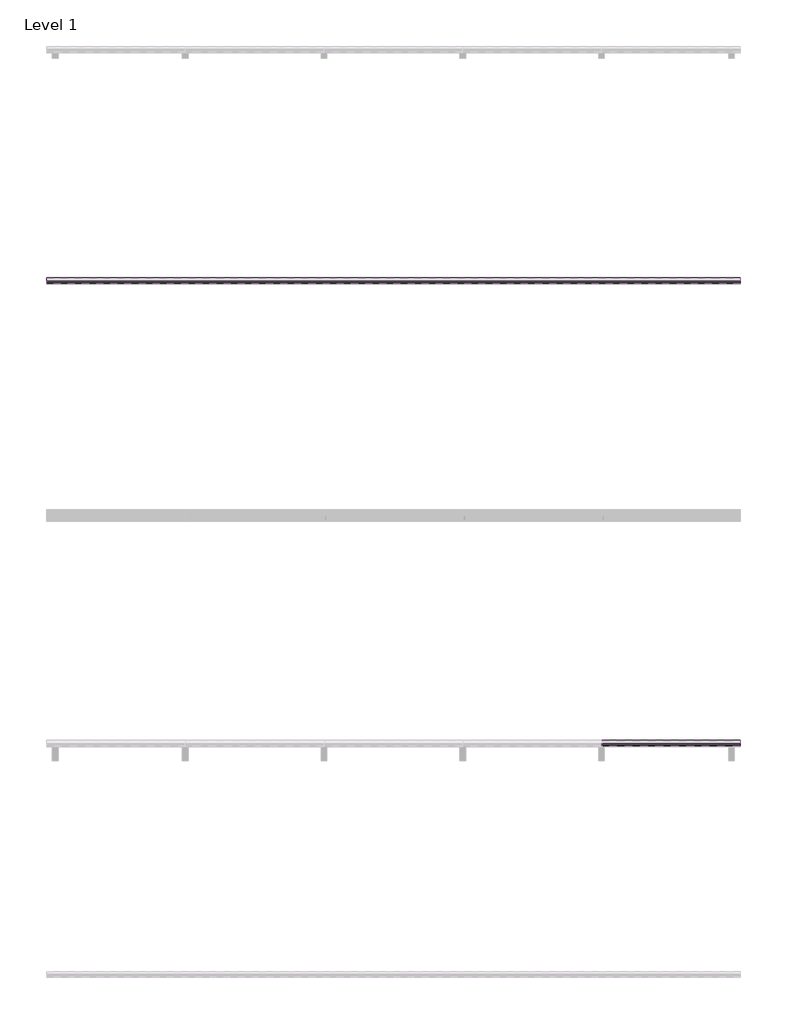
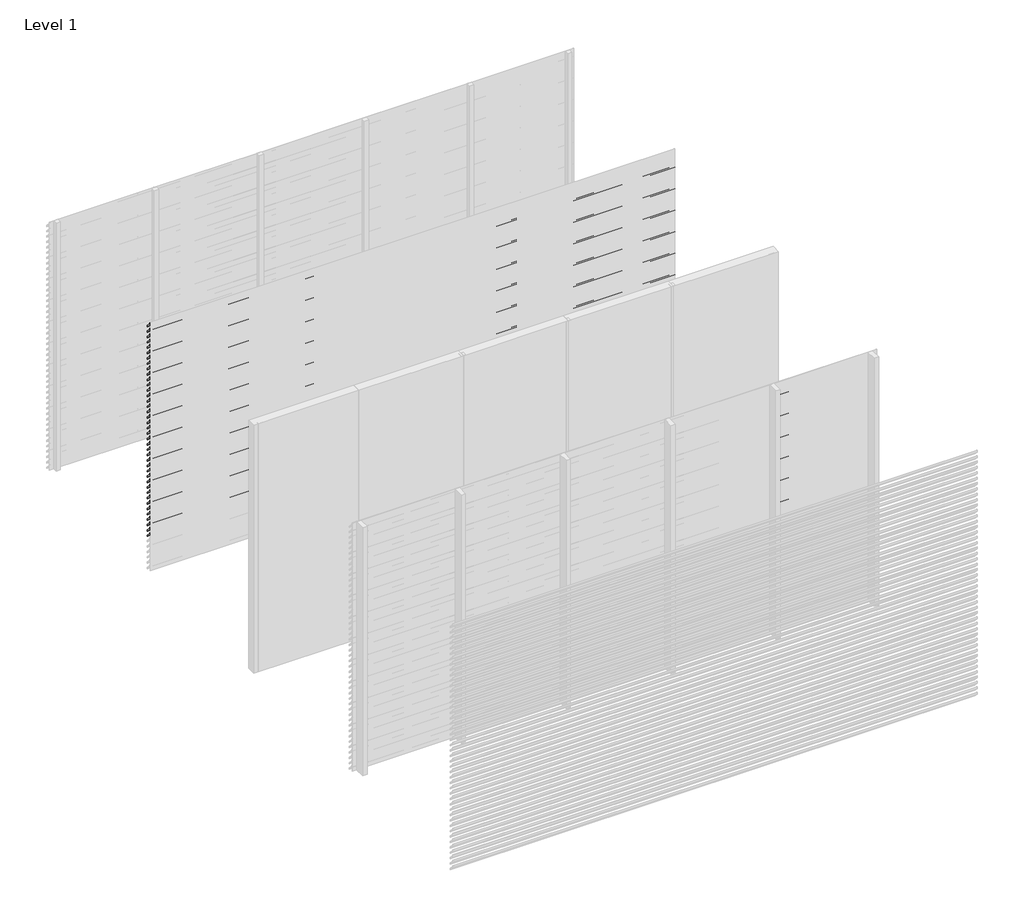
# One storey, part 4 of 12: 96 proxies.
"""IFC4 building model written with IfcOpenShell, lengths in millimetres."""

from ifc_helpers import new_model, si_unit, frame, origin, place, context, project, spatial, polyline, outline, extrude, element, save

model = new_model("IFC4")

# Units and contexts
model_context = context("Model", 3, world=origin())
ifc_project = project(units=[si_unit("LENGTHUNIT", "METRE", prefix="MILLI")], contexts=[model_context])

# Site, building, storey
site = spatial("IfcSite", under=ifc_project)
building = spatial("IfcBuilding", under=site)
storey = spatial("IfcBuildingStorey", under=building, Name="Level 1", Elevation=0.0)

# Proxies
placement = place(None, origin())
element("IfcBuildingElementProxy", 1, Name="Wall Sweeps", at=placement, inside=storey, context=model_context, shape_type="SweptSolid", body=[
    extrude(outline(polyline([(-13995.0, 2990.0), (-13995.0, 2980.7409854), (-13946.0, 2930.0), (-13946.0, 2914.0), (-13997.0, 2966.812046), (-13997.0, 2990.0), (-13995.0, 2990.0)])), frame((0.0, 0.0, 0.0), z_axis=(1.0, 0.0, 0.0), x_axis=(0.0, 1.0, 0.0)), (0.0, 0.0, 1.0), 6000.0),
])
element("IfcBuildingElementProxy", 2, Name="Wall Sweeps", at=placement, inside=storey, context=model_context, shape_type="SweptSolid", body=[
    extrude(outline(polyline([(-13995.0, 2925.0), (-13995.0, 2915.7409854), (-13946.0, 2865.0), (-13946.0, 2849.0), (-13997.0, 2901.812046), (-13997.0, 2925.0), (-13995.0, 2925.0)])), frame((0.0, 0.0, 0.0), z_axis=(1.0, 0.0, 0.0), x_axis=(0.0, 1.0, 0.0)), (0.0, 0.0, 1.0), 6000.0),
])
element("IfcBuildingElementProxy", 3, Name="Wall Sweeps", at=placement, inside=storey, context=model_context, shape_type="SweptSolid", body=[
    extrude(outline(polyline([(-13995.0, 2860.0), (-13995.0, 2850.7409854), (-13946.0, 2800.0), (-13946.0, 2784.0), (-13997.0, 2836.812046), (-13997.0, 2860.0), (-13995.0, 2860.0)])), frame((0.0, 0.0, 0.0), z_axis=(1.0, 0.0, 0.0), x_axis=(0.0, 1.0, 0.0)), (0.0, 0.0, 1.0), 6000.0),
])
element("IfcBuildingElementProxy", 4, Name="Wall Sweeps", at=placement, inside=storey, context=model_context, shape_type="SweptSolid", body=[
    extrude(outline(polyline([(-13995.0, 2795.0), (-13995.0, 2785.7409854), (-13946.0, 2735.0), (-13946.0, 2719.0), (-13997.0, 2771.812046), (-13997.0, 2795.0), (-13995.0, 2795.0)])), frame((0.0, 0.0, 0.0), z_axis=(1.0, 0.0, 0.0), x_axis=(0.0, 1.0, 0.0)), (0.0, 0.0, 1.0), 6000.0),
])
element("IfcBuildingElementProxy", 5, Name="Wall Sweeps", at=placement, inside=storey, context=model_context, shape_type="SweptSolid", body=[
    extrude(outline(polyline([(-13995.0, 2730.0), (-13995.0, 2720.7409854), (-13946.0, 2670.0), (-13946.0, 2654.0), (-13997.0, 2706.812046), (-13997.0, 2730.0), (-13995.0, 2730.0)])), frame((0.0, 0.0, 0.0), z_axis=(1.0, 0.0, 0.0), x_axis=(0.0, 1.0, 0.0)), (0.0, 0.0, 1.0), 6000.0),
])
element("IfcBuildingElementProxy", 6, Name="Wall Sweeps", at=placement, inside=storey, context=model_context, shape_type="SweptSolid", body=[
    extrude(outline(polyline([(-13995.0, 2665.0), (-13995.0, 2655.7409854), (-13946.0, 2605.0), (-13946.0, 2589.0), (-13997.0, 2641.812046), (-13997.0, 2665.0), (-13995.0, 2665.0)])), frame((0.0, 0.0, 0.0), z_axis=(1.0, 0.0, 0.0), x_axis=(0.0, 1.0, 0.0)), (0.0, 0.0, 1.0), 6000.0),
])
element("IfcBuildingElementProxy", 7, Name="Wall Sweeps", at=placement, inside=storey, context=model_context, shape_type="SweptSolid", body=[
    extrude(outline(polyline([(-13995.0, 2600.0), (-13995.0, 2590.7409854), (-13946.0, 2540.0), (-13946.0, 2524.0), (-13997.0, 2576.812046), (-13997.0, 2600.0), (-13995.0, 2600.0)])), frame((0.0, 0.0, 0.0), z_axis=(1.0, 0.0, 0.0), x_axis=(0.0, 1.0, 0.0)), (0.0, 0.0, 1.0), 6000.0),
])
element("IfcBuildingElementProxy", 8, Name="Wall Sweeps", at=placement, inside=storey, context=model_context, shape_type="SweptSolid", body=[
    extrude(outline(polyline([(-13995.0, 2535.0), (-13995.0, 2525.7409854), (-13946.0, 2475.0), (-13946.0, 2459.0), (-13997.0, 2511.812046), (-13997.0, 2535.0), (-13995.0, 2535.0)])), frame((0.0, 0.0, 0.0), z_axis=(1.0, 0.0, 0.0), x_axis=(0.0, 1.0, 0.0)), (0.0, 0.0, 1.0), 6000.0),
])
element("IfcBuildingElementProxy", 9, Name="Wall Sweeps", at=placement, inside=storey, context=model_context, shape_type="SweptSolid", body=[
    extrude(outline(polyline([(-13995.0, 2470.0), (-13995.0, 2460.7409854), (-13946.0, 2410.0), (-13946.0, 2394.0), (-13997.0, 2446.812046), (-13997.0, 2470.0), (-13995.0, 2470.0)])), frame((0.0, 0.0, 0.0), z_axis=(1.0, 0.0, 0.0), x_axis=(0.0, 1.0, 0.0)), (0.0, 0.0, 1.0), 6000.0),
])
element("IfcBuildingElementProxy", 10, Name="Wall Sweeps", at=placement, inside=storey, context=model_context, shape_type="SweptSolid", body=[
    extrude(outline(polyline([(-13995.0, 2405.0), (-13995.0, 2395.7409854), (-13946.0, 2345.0), (-13946.0, 2329.0), (-13997.0, 2381.812046), (-13997.0, 2405.0), (-13995.0, 2405.0)])), frame((0.0, 0.0, 0.0), z_axis=(1.0, 0.0, 0.0), x_axis=(0.0, 1.0, 0.0)), (0.0, 0.0, 1.0), 6000.0),
])
element("IfcBuildingElementProxy", 11, Name="Wall Sweeps", at=placement, inside=storey, context=model_context, shape_type="SweptSolid", body=[
    extrude(outline(polyline([(-13995.0, 2340.0), (-13995.0, 2330.7409854), (-13946.0, 2280.0), (-13946.0, 2264.0), (-13997.0, 2316.812046), (-13997.0, 2340.0), (-13995.0, 2340.0)])), frame((0.0, 0.0, 0.0), z_axis=(1.0, 0.0, 0.0), x_axis=(0.0, 1.0, 0.0)), (0.0, 0.0, 1.0), 6000.0),
])
element("IfcBuildingElementProxy", 12, Name="Wall Sweeps", at=placement, inside=storey, context=model_context, shape_type="SweptSolid", body=[
    extrude(outline(polyline([(-13995.0, 2275.0), (-13995.0, 2265.7409854), (-13946.0, 2215.0), (-13946.0, 2199.0), (-13997.0, 2251.812046), (-13997.0, 2275.0), (-13995.0, 2275.0)])), frame((0.0, 0.0, 0.0), z_axis=(1.0, 0.0, 0.0), x_axis=(0.0, 1.0, 0.0)), (0.0, 0.0, 1.0), 6000.0),
])
element("IfcBuildingElementProxy", 13, Name="Wall Sweeps", at=placement, inside=storey, context=model_context, shape_type="SweptSolid", body=[
    extrude(outline(polyline([(-13995.0, 2210.0), (-13995.0, 2200.7409854), (-13946.0, 2150.0), (-13946.0, 2134.0), (-13997.0, 2186.812046), (-13997.0, 2210.0), (-13995.0, 2210.0)])), frame((0.0, 0.0, 0.0), z_axis=(1.0, 0.0, 0.0), x_axis=(0.0, 1.0, 0.0)), (0.0, 0.0, 1.0), 6000.0),
])
element("IfcBuildingElementProxy", 14, Name="Wall Sweeps", at=placement, inside=storey, context=model_context, shape_type="SweptSolid", body=[
    extrude(outline(polyline([(-13995.0, 2145.0), (-13995.0, 2135.7409854), (-13946.0, 2085.0), (-13946.0, 2069.0), (-13997.0, 2121.812046), (-13997.0, 2145.0), (-13995.0, 2145.0)])), frame((0.0, 0.0, 0.0), z_axis=(1.0, 0.0, 0.0), x_axis=(0.0, 1.0, 0.0)), (0.0, 0.0, 1.0), 6000.0),
])
element("IfcBuildingElementProxy", 15, Name="Wall Sweeps", at=placement, inside=storey, context=model_context, shape_type="SweptSolid", body=[
    extrude(outline(polyline([(-13995.0, 2080.0), (-13995.0, 2070.7409854), (-13946.0, 2020.0), (-13946.0, 2004.0), (-13997.0, 2056.812046), (-13997.0, 2080.0), (-13995.0, 2080.0)])), frame((0.0, 0.0, 0.0), z_axis=(1.0, 0.0, 0.0), x_axis=(0.0, 1.0, 0.0)), (0.0, 0.0, 1.0), 6000.0),
])
element("IfcBuildingElementProxy", 16, Name="Wall Sweeps", at=placement, inside=storey, context=model_context, shape_type="SweptSolid", body=[
    extrude(outline(polyline([(-13995.0, 2015.0), (-13995.0, 2005.7409854), (-13946.0, 1955.0), (-13946.0, 1939.0), (-13997.0, 1991.812046), (-13997.0, 2015.0), (-13995.0, 2015.0)])), frame((0.0, 0.0, 0.0), z_axis=(1.0, 0.0, 0.0), x_axis=(0.0, 1.0, 0.0)), (0.0, 0.0, 1.0), 6000.0),
])
element("IfcBuildingElementProxy", 17, Name="Wall Sweeps", at=placement, inside=storey, context=model_context, shape_type="SweptSolid", body=[
    extrude(outline(polyline([(-13995.0, 1950.0), (-13995.0, 1940.7409854), (-13946.0, 1890.0), (-13946.0, 1874.0), (-13997.0, 1926.812046), (-13997.0, 1950.0), (-13995.0, 1950.0)])), frame((0.0, 0.0, 0.0), z_axis=(1.0, 0.0, 0.0), x_axis=(0.0, 1.0, 0.0)), (0.0, 0.0, 1.0), 6000.0),
])
element("IfcBuildingElementProxy", 18, Name="Wall Sweeps", at=placement, inside=storey, context=model_context, shape_type="SweptSolid", body=[
    extrude(outline(polyline([(-13995.0, 1885.0), (-13995.0, 1875.7409854), (-13946.0, 1825.0), (-13946.0, 1809.0), (-13997.0, 1861.812046), (-13997.0, 1885.0), (-13995.0, 1885.0)])), frame((0.0, 0.0, 0.0), z_axis=(1.0, 0.0, 0.0), x_axis=(0.0, 1.0, 0.0)), (0.0, 0.0, 1.0), 6000.0),
])
element("IfcBuildingElementProxy", 19, Name="Wall Sweeps", at=placement, inside=storey, context=model_context, shape_type="SweptSolid", body=[
    extrude(outline(polyline([(-13995.0, 1820.0), (-13995.0, 1810.7409854), (-13946.0, 1760.0), (-13946.0, 1744.0), (-13997.0, 1796.812046), (-13997.0, 1820.0), (-13995.0, 1820.0)])), frame((0.0, 0.0, 0.0), z_axis=(1.0, 0.0, 0.0), x_axis=(0.0, 1.0, 0.0)), (0.0, 0.0, 1.0), 6000.0),
])
element("IfcBuildingElementProxy", 20, Name="Wall Sweeps", at=placement, inside=storey, context=model_context, shape_type="SweptSolid", body=[
    extrude(outline(polyline([(-13995.0, 1755.0), (-13995.0, 1745.7409854), (-13946.0, 1695.0), (-13946.0, 1679.0), (-13997.0, 1731.812046), (-13997.0, 1755.0), (-13995.0, 1755.0)])), frame((0.0, 0.0, 0.0), z_axis=(1.0, 0.0, 0.0), x_axis=(0.0, 1.0, 0.0)), (0.0, 0.0, 1.0), 6000.0),
])
element("IfcBuildingElementProxy", 21, Name="Wall Sweeps", at=placement, inside=storey, context=model_context, shape_type="SweptSolid", body=[
    extrude(outline(polyline([(-13995.0, 1690.0), (-13995.0, 1680.7409854), (-13946.0, 1630.0), (-13946.0, 1614.0), (-13997.0, 1666.812046), (-13997.0, 1690.0), (-13995.0, 1690.0)])), frame((0.0, 0.0, 0.0), z_axis=(1.0, 0.0, 0.0), x_axis=(0.0, 1.0, 0.0)), (0.0, 0.0, 1.0), 6000.0),
])
element("IfcBuildingElementProxy", 22, Name="Wall Sweeps", at=placement, inside=storey, context=model_context, shape_type="SweptSolid", body=[
    extrude(outline(polyline([(-13995.0, 1625.0), (-13995.0, 1615.7409854), (-13946.0, 1565.0), (-13946.0, 1549.0), (-13997.0, 1601.812046), (-13997.0, 1625.0), (-13995.0, 1625.0)])), frame((0.0, 0.0, 0.0), z_axis=(1.0, 0.0, 0.0), x_axis=(0.0, 1.0, 0.0)), (0.0, 0.0, 1.0), 6000.0),
])
element("IfcBuildingElementProxy", 23, Name="Wall Sweeps", at=placement, inside=storey, context=model_context, shape_type="SweptSolid", body=[
    extrude(outline(polyline([(-13995.0, 1560.0), (-13995.0, 1550.7409854), (-13946.0, 1500.0), (-13946.0, 1484.0), (-13997.0, 1536.812046), (-13997.0, 1560.0), (-13995.0, 1560.0)])), frame((0.0, 0.0, 0.0), z_axis=(1.0, 0.0, 0.0), x_axis=(0.0, 1.0, 0.0)), (0.0, 0.0, 1.0), 6000.0),
])
element("IfcBuildingElementProxy", 24, Name="Wall Sweeps", at=placement, inside=storey, context=model_context, shape_type="SweptSolid", body=[
    extrude(outline(polyline([(-13995.0, 1495.0), (-13995.0, 1485.7409854), (-13946.0, 1435.0), (-13946.0, 1419.0), (-13997.0, 1471.812046), (-13997.0, 1495.0), (-13995.0, 1495.0)])), frame((0.0, 0.0, 0.0), z_axis=(1.0, 0.0, 0.0), x_axis=(0.0, 1.0, 0.0)), (0.0, 0.0, 1.0), 6000.0),
])
element("IfcBuildingElementProxy", 25, Name="Wall Sweeps", at=placement, inside=storey, context=model_context, shape_type="SweptSolid", body=[
    extrude(outline(polyline([(-13995.0, 1430.0), (-13995.0, 1420.7409854), (-13946.0, 1370.0), (-13946.0, 1354.0), (-13997.0, 1406.812046), (-13997.0, 1430.0), (-13995.0, 1430.0)])), frame((0.0, 0.0, 0.0), z_axis=(1.0, 0.0, 0.0), x_axis=(0.0, 1.0, 0.0)), (0.0, 0.0, 1.0), 6000.0),
])
element("IfcBuildingElementProxy", 26, Name="Wall Sweeps", at=placement, inside=storey, context=model_context, shape_type="SweptSolid", body=[
    extrude(outline(polyline([(-13995.0, 1365.0), (-13995.0, 1355.7409854), (-13946.0, 1305.0), (-13946.0, 1289.0), (-13997.0, 1341.812046), (-13997.0, 1365.0), (-13995.0, 1365.0)])), frame((0.0, 0.0, 0.0), z_axis=(1.0, 0.0, 0.0), x_axis=(0.0, 1.0, 0.0)), (0.0, 0.0, 1.0), 6000.0),
])
element("IfcBuildingElementProxy", 27, Name="Wall Sweeps", at=placement, inside=storey, context=model_context, shape_type="SweptSolid", body=[
    extrude(outline(polyline([(-13995.0, 1300.0), (-13995.0, 1290.7409854), (-13946.0, 1240.0), (-13946.0, 1224.0), (-13997.0, 1276.812046), (-13997.0, 1300.0), (-13995.0, 1300.0)])), frame((0.0, 0.0, 0.0), z_axis=(1.0, 0.0, 0.0), x_axis=(0.0, 1.0, 0.0)), (0.0, 0.0, 1.0), 6000.0),
])
element("IfcBuildingElementProxy", 28, Name="Wall Sweeps", at=placement, inside=storey, context=model_context, shape_type="SweptSolid", body=[
    extrude(outline(polyline([(-13995.0, 1235.0), (-13995.0, 1225.7409854), (-13946.0, 1175.0), (-13946.0, 1159.0), (-13997.0, 1211.812046), (-13997.0, 1235.0), (-13995.0, 1235.0)])), frame((0.0, 0.0, 0.0), z_axis=(1.0, 0.0, 0.0), x_axis=(0.0, 1.0, 0.0)), (0.0, 0.0, 1.0), 6000.0),
])
element("IfcBuildingElementProxy", 29, Name="Wall Sweeps", at=placement, inside=storey, context=model_context, shape_type="SweptSolid", body=[
    extrude(outline(polyline([(-13995.0, 1170.0), (-13995.0, 1160.7409854), (-13946.0, 1110.0), (-13946.0, 1094.0), (-13997.0, 1146.812046), (-13997.0, 1170.0), (-13995.0, 1170.0)])), frame((0.0, 0.0, 0.0), z_axis=(1.0, 0.0, 0.0), x_axis=(0.0, 1.0, 0.0)), (0.0, 0.0, 1.0), 6000.0),
])
element("IfcBuildingElementProxy", 30, Name="Wall Sweeps", at=placement, inside=storey, context=model_context, shape_type="SweptSolid", body=[
    extrude(outline(polyline([(-13995.0, 1105.0), (-13995.0, 1095.7409854), (-13946.0, 1045.0), (-13946.0, 1029.0), (-13997.0, 1081.812046), (-13997.0, 1105.0), (-13995.0, 1105.0)])), frame((0.0, 0.0, 0.0), z_axis=(1.0, 0.0, 0.0), x_axis=(0.0, 1.0, 0.0)), (0.0, 0.0, 1.0), 6000.0),
])
element("IfcBuildingElementProxy", 31, Name="Wall Sweeps", at=placement, inside=storey, context=model_context, shape_type="SweptSolid", body=[
    extrude(outline(polyline([(-13995.0, 1040.0), (-13995.0, 1030.7409854), (-13946.0, 980.0), (-13946.0, 964.0), (-13997.0, 1016.812046), (-13997.0, 1040.0), (-13995.0, 1040.0)])), frame((0.0, 0.0, 0.0), z_axis=(1.0, 0.0, 0.0), x_axis=(0.0, 1.0, 0.0)), (0.0, 0.0, 1.0), 6000.0),
])
element("IfcBuildingElementProxy", 32, Name="Wall Sweeps", at=placement, inside=storey, context=model_context, shape_type="SweptSolid", body=[
    extrude(outline(polyline([(-13995.0, 975.0), (-13995.0, 965.7409854), (-13946.0, 915.0), (-13946.0, 899.0), (-13997.0, 951.812046), (-13997.0, 975.0), (-13995.0, 975.0)])), frame((0.0, 0.0, 0.0), z_axis=(1.0, 0.0, 0.0), x_axis=(0.0, 1.0, 0.0)), (0.0, 0.0, 1.0), 6000.0),
])
element("IfcBuildingElementProxy", 33, Name="Wall Sweeps", at=placement, inside=storey, context=model_context, shape_type="SweptSolid", body=[
    extrude(outline(polyline([(-13995.0, 910.0), (-13995.0, 900.7409854), (-13946.0, 850.0), (-13946.0, 834.0), (-13997.0, 886.812046), (-13997.0, 910.0), (-13995.0, 910.0)])), frame((0.0, 0.0, 0.0), z_axis=(1.0, 0.0, 0.0), x_axis=(0.0, 1.0, 0.0)), (0.0, 0.0, 1.0), 6000.0),
])
element("IfcBuildingElementProxy", 34, Name="Wall Sweeps", at=placement, inside=storey, context=model_context, shape_type="SweptSolid", body=[
    extrude(outline(polyline([(-13995.0, 845.0), (-13995.0, 835.7409854), (-13946.0, 785.0), (-13946.0, 769.0), (-13997.0, 821.812046), (-13997.0, 845.0), (-13995.0, 845.0)])), frame((0.0, 0.0, 0.0), z_axis=(1.0, 0.0, 0.0), x_axis=(0.0, 1.0, 0.0)), (0.0, 0.0, 1.0), 6000.0),
])
element("IfcBuildingElementProxy", 35, Name="Wall Sweeps", at=placement, inside=storey, context=model_context, shape_type="SweptSolid", body=[
    extrude(outline(polyline([(-13995.0, 780.0), (-13995.0, 770.7409854), (-13946.0, 720.0), (-13946.0, 704.0), (-13997.0, 756.812046), (-13997.0, 780.0), (-13995.0, 780.0)])), frame((0.0, 0.0, 0.0), z_axis=(1.0, 0.0, 0.0), x_axis=(0.0, 1.0, 0.0)), (0.0, 0.0, 1.0), 6000.0),
])
element("IfcBuildingElementProxy", 36, Name="Wall Sweeps", at=placement, inside=storey, context=model_context, shape_type="SweptSolid", body=[
    extrude(outline(polyline([(-13995.0, 715.0), (-13995.0, 705.7409854), (-13946.0, 655.0), (-13946.0, 639.0), (-13997.0, 691.812046), (-13997.0, 715.0), (-13995.0, 715.0)])), frame((0.0, 0.0, 0.0), z_axis=(1.0, 0.0, 0.0), x_axis=(0.0, 1.0, 0.0)), (0.0, 0.0, 1.0), 6000.0),
])
element("IfcBuildingElementProxy", 37, Name="Wall Sweeps", at=placement, inside=storey, context=model_context, shape_type="SweptSolid", body=[
    extrude(outline(polyline([(-13995.0, 650.0), (-13995.0, 640.7409854), (-13946.0, 590.0), (-13946.0, 574.0), (-13997.0, 626.812046), (-13997.0, 650.0), (-13995.0, 650.0)])), frame((0.0, 0.0, 0.0), z_axis=(1.0, 0.0, 0.0), x_axis=(0.0, 1.0, 0.0)), (0.0, 0.0, 1.0), 6000.0),
])
element("IfcBuildingElementProxy", 38, Name="Wall Sweeps", at=placement, inside=storey, context=model_context, shape_type="SweptSolid", body=[
    extrude(outline(polyline([(-13995.0, 585.0), (-13995.0, 575.7409854), (-13946.0, 525.0), (-13946.0, 509.0), (-13997.0, 561.812046), (-13997.0, 585.0), (-13995.0, 585.0)])), frame((0.0, 0.0, 0.0), z_axis=(1.0, 0.0, 0.0), x_axis=(0.0, 1.0, 0.0)), (0.0, 0.0, 1.0), 6000.0),
])
element("IfcBuildingElementProxy", 39, Name="Wall Sweeps", at=placement, inside=storey, context=model_context, shape_type="SweptSolid", body=[
    extrude(outline(polyline([(-13995.0, 520.0), (-13995.0, 510.7409854), (-13946.0, 460.0), (-13946.0, 444.0), (-13997.0, 496.812046), (-13997.0, 520.0), (-13995.0, 520.0)])), frame((0.0, 0.0, 0.0), z_axis=(1.0, 0.0, 0.0), x_axis=(0.0, 1.0, 0.0)), (0.0, 0.0, 1.0), 6000.0),
])
element("IfcBuildingElementProxy", 40, Name="Wall Sweeps", at=placement, inside=storey, context=model_context, shape_type="SweptSolid", body=[
    extrude(outline(polyline([(-13995.0, 455.0), (-13995.0, 445.7409854), (-13946.0, 395.0), (-13946.0, 379.0), (-13997.0, 431.812046), (-13997.0, 455.0), (-13995.0, 455.0)])), frame((0.0, 0.0, 0.0), z_axis=(1.0, 0.0, 0.0), x_axis=(0.0, 1.0, 0.0)), (0.0, 0.0, 1.0), 6000.0),
])
element("IfcBuildingElementProxy", 41, Name="Wall Sweeps", at=placement, inside=storey, context=model_context, shape_type="SweptSolid", body=[
    extrude(outline(polyline([(-17995.0, 2990.0), (-17995.0, 2980.7409854), (-17946.0, 2930.0), (-17946.0, 2914.0), (-17997.0, 2966.812046), (-17997.0, 2990.0), (-17995.0, 2990.0)])), frame((4799.9999998, 0.0, 0.0), z_axis=(1.0, 0.0, 0.0), x_axis=(0.0, 1.0, 0.0)), (0.0, 0.0, 1.0), 1200.0000002),
])
element("IfcBuildingElementProxy", 42, Name="Wall Sweeps", at=placement, inside=storey, context=model_context, shape_type="SweptSolid", body=[
    extrude(outline(polyline([(-17995.0, 2925.0), (-17995.0, 2915.7409854), (-17946.0, 2865.0), (-17946.0, 2849.0), (-17997.0, 2901.812046), (-17997.0, 2925.0), (-17995.0, 2925.0)])), frame((4799.9999998, 0.0, 0.0), z_axis=(1.0, 0.0, 0.0), x_axis=(0.0, 1.0, 0.0)), (0.0, 0.0, 1.0), 1200.0000002),
])
element("IfcBuildingElementProxy", 43, Name="Wall Sweeps", at=placement, inside=storey, context=model_context, shape_type="SweptSolid", body=[
    extrude(outline(polyline([(-17995.0, 2860.0), (-17995.0, 2850.7409854), (-17946.0, 2800.0), (-17946.0, 2784.0), (-17997.0, 2836.812046), (-17997.0, 2860.0), (-17995.0, 2860.0)])), frame((4799.9999998, 0.0, 0.0), z_axis=(1.0, 0.0, 0.0), x_axis=(0.0, 1.0, 0.0)), (0.0, 0.0, 1.0), 1200.0000002),
])
element("IfcBuildingElementProxy", 44, Name="Wall Sweeps", at=placement, inside=storey, context=model_context, shape_type="SweptSolid", body=[
    extrude(outline(polyline([(-17995.0, 2795.0), (-17995.0, 2785.7409854), (-17946.0, 2735.0), (-17946.0, 2719.0), (-17997.0, 2771.812046), (-17997.0, 2795.0), (-17995.0, 2795.0)])), frame((4799.9999998, 0.0, 0.0), z_axis=(1.0, 0.0, 0.0), x_axis=(0.0, 1.0, 0.0)), (0.0, 0.0, 1.0), 1200.0000002),
])
element("IfcBuildingElementProxy", 45, Name="Wall Sweeps", at=placement, inside=storey, context=model_context, shape_type="SweptSolid", body=[
    extrude(outline(polyline([(-17995.0, 2730.0), (-17995.0, 2720.7409854), (-17946.0, 2670.0), (-17946.0, 2654.0), (-17997.0, 2706.812046), (-17997.0, 2730.0), (-17995.0, 2730.0)])), frame((4799.9999998, 0.0, 0.0), z_axis=(1.0, 0.0, 0.0), x_axis=(0.0, 1.0, 0.0)), (0.0, 0.0, 1.0), 1200.0000002),
])
element("IfcBuildingElementProxy", 46, Name="Wall Sweeps", at=placement, inside=storey, context=model_context, shape_type="SweptSolid", body=[
    extrude(outline(polyline([(-17995.0, 2665.0), (-17995.0, 2655.7409854), (-17946.0, 2605.0), (-17946.0, 2589.0), (-17997.0, 2641.812046), (-17997.0, 2665.0), (-17995.0, 2665.0)])), frame((4799.9999998, 0.0, 0.0), z_axis=(1.0, 0.0, 0.0), x_axis=(0.0, 1.0, 0.0)), (0.0, 0.0, 1.0), 1200.0000002),
])
element("IfcBuildingElementProxy", 47, Name="Wall Sweeps", at=placement, inside=storey, context=model_context, shape_type="SweptSolid", body=[
    extrude(outline(polyline([(-17995.0, 2600.0), (-17995.0, 2590.7409854), (-17946.0, 2540.0), (-17946.0, 2524.0), (-17997.0, 2576.812046), (-17997.0, 2600.0), (-17995.0, 2600.0)])), frame((4799.9999998, 0.0, 0.0), z_axis=(1.0, 0.0, 0.0), x_axis=(0.0, 1.0, 0.0)), (0.0, 0.0, 1.0), 1200.0000002),
])
element("IfcBuildingElementProxy", 48, Name="Wall Sweeps", at=placement, inside=storey, context=model_context, shape_type="SweptSolid", body=[
    extrude(outline(polyline([(-17995.0, 2535.0), (-17995.0, 2525.7409854), (-17946.0, 2475.0), (-17946.0, 2459.0), (-17997.0, 2511.812046), (-17997.0, 2535.0), (-17995.0, 2535.0)])), frame((4799.9999998, 0.0, 0.0), z_axis=(1.0, 0.0, 0.0), x_axis=(0.0, 1.0, 0.0)), (0.0, 0.0, 1.0), 1200.0000002),
])
element("IfcBuildingElementProxy", 49, Name="Wall Sweeps", at=placement, inside=storey, context=model_context, shape_type="SweptSolid", body=[
    extrude(outline(polyline([(-17995.0, 2470.0), (-17995.0, 2460.7409854), (-17946.0, 2410.0), (-17946.0, 2394.0), (-17997.0, 2446.812046), (-17997.0, 2470.0), (-17995.0, 2470.0)])), frame((4799.9999998, 0.0, 0.0), z_axis=(1.0, 0.0, 0.0), x_axis=(0.0, 1.0, 0.0)), (0.0, 0.0, 1.0), 1200.0000002),
])
element("IfcBuildingElementProxy", 50, Name="Wall Sweeps", at=placement, inside=storey, context=model_context, shape_type="SweptSolid", body=[
    extrude(outline(polyline([(-17995.0, 2405.0), (-17995.0, 2395.7409854), (-17946.0, 2345.0), (-17946.0, 2329.0), (-17997.0, 2381.812046), (-17997.0, 2405.0), (-17995.0, 2405.0)])), frame((4799.9999998, 0.0, 0.0), z_axis=(1.0, 0.0, 0.0), x_axis=(0.0, 1.0, 0.0)), (0.0, 0.0, 1.0), 1200.0000002),
])
element("IfcBuildingElementProxy", 51, Name="Wall Sweeps", at=placement, inside=storey, context=model_context, shape_type="SweptSolid", body=[
    extrude(outline(polyline([(-17995.0, 2340.0), (-17995.0, 2330.7409854), (-17946.0, 2280.0), (-17946.0, 2264.0), (-17997.0, 2316.812046), (-17997.0, 2340.0), (-17995.0, 2340.0)])), frame((4799.9999998, 0.0, 0.0), z_axis=(1.0, 0.0, 0.0), x_axis=(0.0, 1.0, 0.0)), (0.0, 0.0, 1.0), 1200.0000002),
])
element("IfcBuildingElementProxy", 52, Name="Wall Sweeps", at=placement, inside=storey, context=model_context, shape_type="SweptSolid", body=[
    extrude(outline(polyline([(-17995.0, 2275.0), (-17995.0, 2265.7409854), (-17946.0, 2215.0), (-17946.0, 2199.0), (-17997.0, 2251.812046), (-17997.0, 2275.0), (-17995.0, 2275.0)])), frame((4799.9999998, 0.0, 0.0), z_axis=(1.0, 0.0, 0.0), x_axis=(0.0, 1.0, 0.0)), (0.0, 0.0, 1.0), 1200.0000002),
])
element("IfcBuildingElementProxy", 53, Name="Wall Sweeps", at=placement, inside=storey, context=model_context, shape_type="SweptSolid", body=[
    extrude(outline(polyline([(-17995.0, 2210.0), (-17995.0, 2200.7409854), (-17946.0, 2150.0), (-17946.0, 2134.0), (-17997.0, 2186.812046), (-17997.0, 2210.0), (-17995.0, 2210.0)])), frame((4799.9999998, 0.0, 0.0), z_axis=(1.0, 0.0, 0.0), x_axis=(0.0, 1.0, 0.0)), (0.0, 0.0, 1.0), 1200.0000002),
])
element("IfcBuildingElementProxy", 54, Name="Wall Sweeps", at=placement, inside=storey, context=model_context, shape_type="SweptSolid", body=[
    extrude(outline(polyline([(-17995.0, 2145.0), (-17995.0, 2135.7409854), (-17946.0, 2085.0), (-17946.0, 2069.0), (-17997.0, 2121.812046), (-17997.0, 2145.0), (-17995.0, 2145.0)])), frame((4799.9999998, 0.0, 0.0), z_axis=(1.0, 0.0, 0.0), x_axis=(0.0, 1.0, 0.0)), (0.0, 0.0, 1.0), 1200.0000002),
])
element("IfcBuildingElementProxy", 55, Name="Wall Sweeps", at=placement, inside=storey, context=model_context, shape_type="SweptSolid", body=[
    extrude(outline(polyline([(-17995.0, 2080.0), (-17995.0, 2070.7409854), (-17946.0, 2020.0), (-17946.0, 2004.0), (-17997.0, 2056.812046), (-17997.0, 2080.0), (-17995.0, 2080.0)])), frame((4799.9999998, 0.0, 0.0), z_axis=(1.0, 0.0, 0.0), x_axis=(0.0, 1.0, 0.0)), (0.0, 0.0, 1.0), 1200.0000002),
])
element("IfcBuildingElementProxy", 56, Name="Wall Sweeps", at=placement, inside=storey, context=model_context, shape_type="SweptSolid", body=[
    extrude(outline(polyline([(-17995.0, 2015.0), (-17995.0, 2005.7409854), (-17946.0, 1955.0), (-17946.0, 1939.0), (-17997.0, 1991.812046), (-17997.0, 2015.0), (-17995.0, 2015.0)])), frame((4799.9999998, 0.0, 0.0), z_axis=(1.0, 0.0, 0.0), x_axis=(0.0, 1.0, 0.0)), (0.0, 0.0, 1.0), 1200.0000002),
])
element("IfcBuildingElementProxy", 57, Name="Wall Sweeps", at=placement, inside=storey, context=model_context, shape_type="SweptSolid", body=[
    extrude(outline(polyline([(-17995.0, 1950.0), (-17995.0, 1940.7409854), (-17946.0, 1890.0), (-17946.0, 1874.0), (-17997.0, 1926.812046), (-17997.0, 1950.0), (-17995.0, 1950.0)])), frame((4799.9999998, 0.0, 0.0), z_axis=(1.0, 0.0, 0.0), x_axis=(0.0, 1.0, 0.0)), (0.0, 0.0, 1.0), 1200.0000002),
])
element("IfcBuildingElementProxy", 58, Name="Wall Sweeps", at=placement, inside=storey, context=model_context, shape_type="SweptSolid", body=[
    extrude(outline(polyline([(-17995.0, 1885.0), (-17995.0, 1875.7409854), (-17946.0, 1825.0), (-17946.0, 1809.0), (-17997.0, 1861.812046), (-17997.0, 1885.0), (-17995.0, 1885.0)])), frame((4799.9999998, 0.0, 0.0), z_axis=(1.0, 0.0, 0.0), x_axis=(0.0, 1.0, 0.0)), (0.0, 0.0, 1.0), 1200.0000002),
])
element("IfcBuildingElementProxy", 59, Name="Wall Sweeps", at=placement, inside=storey, context=model_context, shape_type="SweptSolid", body=[
    extrude(outline(polyline([(-17995.0, 1820.0), (-17995.0, 1810.7409854), (-17946.0, 1760.0), (-17946.0, 1744.0), (-17997.0, 1796.812046), (-17997.0, 1820.0), (-17995.0, 1820.0)])), frame((4799.9999998, 0.0, 0.0), z_axis=(1.0, 0.0, 0.0), x_axis=(0.0, 1.0, 0.0)), (0.0, 0.0, 1.0), 1200.0000002),
])
element("IfcBuildingElementProxy", 60, Name="Wall Sweeps", at=placement, inside=storey, context=model_context, shape_type="SweptSolid", body=[
    extrude(outline(polyline([(-17995.0, 1755.0), (-17995.0, 1745.7409854), (-17946.0, 1695.0), (-17946.0, 1679.0), (-17997.0, 1731.812046), (-17997.0, 1755.0), (-17995.0, 1755.0)])), frame((4799.9999998, 0.0, 0.0), z_axis=(1.0, 0.0, 0.0), x_axis=(0.0, 1.0, 0.0)), (0.0, 0.0, 1.0), 1200.0000002),
])
element("IfcBuildingElementProxy", 61, Name="Wall Sweeps", at=placement, inside=storey, context=model_context, shape_type="SweptSolid", body=[
    extrude(outline(polyline([(-17995.0, 1690.0), (-17995.0, 1680.7409854), (-17946.0, 1630.0), (-17946.0, 1614.0), (-17997.0, 1666.812046), (-17997.0, 1690.0), (-17995.0, 1690.0)])), frame((4799.9999998, 0.0, 0.0), z_axis=(1.0, 0.0, 0.0), x_axis=(0.0, 1.0, 0.0)), (0.0, 0.0, 1.0), 1200.0000002),
])
element("IfcBuildingElementProxy", 62, Name="Wall Sweeps", at=placement, inside=storey, context=model_context, shape_type="SweptSolid", body=[
    extrude(outline(polyline([(-17995.0, 1625.0), (-17995.0, 1615.7409854), (-17946.0, 1565.0), (-17946.0, 1549.0), (-17997.0, 1601.812046), (-17997.0, 1625.0), (-17995.0, 1625.0)])), frame((4799.9999998, 0.0, 0.0), z_axis=(1.0, 0.0, 0.0), x_axis=(0.0, 1.0, 0.0)), (0.0, 0.0, 1.0), 1200.0000002),
])
element("IfcBuildingElementProxy", 63, Name="Wall Sweeps", at=placement, inside=storey, context=model_context, shape_type="SweptSolid", body=[
    extrude(outline(polyline([(-17995.0, 1560.0), (-17995.0, 1550.7409854), (-17946.0, 1500.0), (-17946.0, 1484.0), (-17997.0, 1536.812046), (-17997.0, 1560.0), (-17995.0, 1560.0)])), frame((4799.9999998, 0.0, 0.0), z_axis=(1.0, 0.0, 0.0), x_axis=(0.0, 1.0, 0.0)), (0.0, 0.0, 1.0), 1200.0000002),
])
element("IfcBuildingElementProxy", 64, Name="Wall Sweeps", at=placement, inside=storey, context=model_context, shape_type="SweptSolid", body=[
    extrude(outline(polyline([(-17995.0, 1495.0), (-17995.0, 1485.7409854), (-17946.0, 1435.0), (-17946.0, 1419.0), (-17997.0, 1471.812046), (-17997.0, 1495.0), (-17995.0, 1495.0)])), frame((4799.9999998, 0.0, 0.0), z_axis=(1.0, 0.0, 0.0), x_axis=(0.0, 1.0, 0.0)), (0.0, 0.0, 1.0), 1200.0000002),
])
element("IfcBuildingElementProxy", 65, Name="Wall Sweeps", at=placement, inside=storey, context=model_context, shape_type="SweptSolid", body=[
    extrude(outline(polyline([(-17995.0, 1430.0), (-17995.0, 1420.7409854), (-17946.0, 1370.0), (-17946.0, 1354.0), (-17997.0, 1406.812046), (-17997.0, 1430.0), (-17995.0, 1430.0)])), frame((4799.9999998, 0.0, 0.0), z_axis=(1.0, 0.0, 0.0), x_axis=(0.0, 1.0, 0.0)), (0.0, 0.0, 1.0), 1200.0000002),
])
element("IfcBuildingElementProxy", 66, Name="Wall Sweeps", at=placement, inside=storey, context=model_context, shape_type="SweptSolid", body=[
    extrude(outline(polyline([(-17995.0, 1365.0), (-17995.0, 1355.7409854), (-17946.0, 1305.0), (-17946.0, 1289.0), (-17997.0, 1341.812046), (-17997.0, 1365.0), (-17995.0, 1365.0)])), frame((4799.9999998, 0.0, 0.0), z_axis=(1.0, 0.0, 0.0), x_axis=(0.0, 1.0, 0.0)), (0.0, 0.0, 1.0), 1200.0000002),
])
element("IfcBuildingElementProxy", 67, Name="Wall Sweeps", at=placement, inside=storey, context=model_context, shape_type="SweptSolid", body=[
    extrude(outline(polyline([(-17995.0, 1300.0), (-17995.0, 1290.7409854), (-17946.0, 1240.0), (-17946.0, 1224.0), (-17997.0, 1276.812046), (-17997.0, 1300.0), (-17995.0, 1300.0)])), frame((4799.9999998, 0.0, 0.0), z_axis=(1.0, 0.0, 0.0), x_axis=(0.0, 1.0, 0.0)), (0.0, 0.0, 1.0), 1200.0000002),
])
element("IfcBuildingElementProxy", 68, Name="Wall Sweeps", at=placement, inside=storey, context=model_context, shape_type="SweptSolid", body=[
    extrude(outline(polyline([(-17995.0, 1235.0), (-17995.0, 1225.7409854), (-17946.0, 1175.0), (-17946.0, 1159.0), (-17997.0, 1211.812046), (-17997.0, 1235.0), (-17995.0, 1235.0)])), frame((4799.9999998, 0.0, 0.0), z_axis=(1.0, 0.0, 0.0), x_axis=(0.0, 1.0, 0.0)), (0.0, 0.0, 1.0), 1200.0000002),
])
element("IfcBuildingElementProxy", 69, Name="Wall Sweeps", at=placement, inside=storey, context=model_context, shape_type="SweptSolid", body=[
    extrude(outline(polyline([(-17995.0, 1170.0), (-17995.0, 1160.7409854), (-17946.0, 1110.0), (-17946.0, 1094.0), (-17997.0, 1146.812046), (-17997.0, 1170.0), (-17995.0, 1170.0)])), frame((4799.9999998, 0.0, 0.0), z_axis=(1.0, 0.0, 0.0), x_axis=(0.0, 1.0, 0.0)), (0.0, 0.0, 1.0), 1200.0000002),
])
element("IfcBuildingElementProxy", 70, Name="Wall Sweeps", at=placement, inside=storey, context=model_context, shape_type="SweptSolid", body=[
    extrude(outline(polyline([(-17995.0, 1105.0), (-17995.0, 1095.7409854), (-17946.0, 1045.0), (-17946.0, 1029.0), (-17997.0, 1081.812046), (-17997.0, 1105.0), (-17995.0, 1105.0)])), frame((4799.9999998, 0.0, 0.0), z_axis=(1.0, 0.0, 0.0), x_axis=(0.0, 1.0, 0.0)), (0.0, 0.0, 1.0), 1200.0000002),
])
element("IfcBuildingElementProxy", 71, Name="Wall Sweeps", at=placement, inside=storey, context=model_context, shape_type="SweptSolid", body=[
    extrude(outline(polyline([(-17995.0, 1040.0), (-17995.0, 1030.7409854), (-17946.0, 980.0), (-17946.0, 964.0), (-17997.0, 1016.812046), (-17997.0, 1040.0), (-17995.0, 1040.0)])), frame((4799.9999998, 0.0, 0.0), z_axis=(1.0, 0.0, 0.0), x_axis=(0.0, 1.0, 0.0)), (0.0, 0.0, 1.0), 1200.0000002),
])
element("IfcBuildingElementProxy", 72, Name="Wall Sweeps", at=placement, inside=storey, context=model_context, shape_type="SweptSolid", body=[
    extrude(outline(polyline([(-17995.0, 975.0), (-17995.0, 965.7409854), (-17946.0, 915.0), (-17946.0, 899.0), (-17997.0, 951.812046), (-17997.0, 975.0), (-17995.0, 975.0)])), frame((4799.9999998, 0.0, 0.0), z_axis=(1.0, 0.0, 0.0), x_axis=(0.0, 1.0, 0.0)), (0.0, 0.0, 1.0), 1200.0000002),
])
element("IfcBuildingElementProxy", 73, Name="Wall Sweeps", at=placement, inside=storey, context=model_context, shape_type="SweptSolid", body=[
    extrude(outline(polyline([(-17995.0, 910.0), (-17995.0, 900.7409854), (-17946.0, 850.0), (-17946.0, 834.0), (-17997.0, 886.812046), (-17997.0, 910.0), (-17995.0, 910.0)])), frame((4799.9999998, 0.0, 0.0), z_axis=(1.0, 0.0, 0.0), x_axis=(0.0, 1.0, 0.0)), (0.0, 0.0, 1.0), 1200.0000002),
])
element("IfcBuildingElementProxy", 74, Name="Wall Sweeps", at=placement, inside=storey, context=model_context, shape_type="SweptSolid", body=[
    extrude(outline(polyline([(-17995.0, 845.0), (-17995.0, 835.7409854), (-17946.0, 785.0), (-17946.0, 769.0), (-17997.0, 821.812046), (-17997.0, 845.0), (-17995.0, 845.0)])), frame((4799.9999998, 0.0, 0.0), z_axis=(1.0, 0.0, 0.0), x_axis=(0.0, 1.0, 0.0)), (0.0, 0.0, 1.0), 1200.0000002),
])
element("IfcBuildingElementProxy", 75, Name="Wall Sweeps", at=placement, inside=storey, context=model_context, shape_type="SweptSolid", body=[
    extrude(outline(polyline([(-17995.0, 780.0), (-17995.0, 770.7409854), (-17946.0, 720.0), (-17946.0, 704.0), (-17997.0, 756.812046), (-17997.0, 780.0), (-17995.0, 780.0)])), frame((4799.9999998, 0.0, 0.0), z_axis=(1.0, 0.0, 0.0), x_axis=(0.0, 1.0, 0.0)), (0.0, 0.0, 1.0), 1200.0000002),
])
element("IfcBuildingElementProxy", 76, Name="Wall Sweeps", at=placement, inside=storey, context=model_context, shape_type="SweptSolid", body=[
    extrude(outline(polyline([(-17995.0, 715.0), (-17995.0, 705.7409854), (-17946.0, 655.0), (-17946.0, 639.0), (-17997.0, 691.812046), (-17997.0, 715.0), (-17995.0, 715.0)])), frame((4799.9999998, 0.0, 0.0), z_axis=(1.0, 0.0, 0.0), x_axis=(0.0, 1.0, 0.0)), (0.0, 0.0, 1.0), 1200.0000002),
])
element("IfcBuildingElementProxy", 77, Name="Wall Sweeps", at=placement, inside=storey, context=model_context, shape_type="SweptSolid", body=[
    extrude(outline(polyline([(-17995.0, 650.0), (-17995.0, 640.7409854), (-17946.0, 590.0), (-17946.0, 574.0), (-17997.0, 626.812046), (-17997.0, 650.0), (-17995.0, 650.0)])), frame((4799.9999998, 0.0, 0.0), z_axis=(1.0, 0.0, 0.0), x_axis=(0.0, 1.0, 0.0)), (0.0, 0.0, 1.0), 1200.0000002),
])
element("IfcBuildingElementProxy", 78, Name="Wall Sweeps", at=placement, inside=storey, context=model_context, shape_type="SweptSolid", body=[
    extrude(outline(polyline([(-17995.0, 585.0), (-17995.0, 575.7409854), (-17946.0, 525.0), (-17946.0, 509.0), (-17997.0, 561.812046), (-17997.0, 585.0), (-17995.0, 585.0)])), frame((4799.9999998, 0.0, 0.0), z_axis=(1.0, 0.0, 0.0), x_axis=(0.0, 1.0, 0.0)), (0.0, 0.0, 1.0), 1200.0000002),
])
element("IfcBuildingElementProxy", 79, Name="Wall Sweeps", at=placement, inside=storey, context=model_context, shape_type="SweptSolid", body=[
    extrude(outline(polyline([(-17995.0, 520.0), (-17995.0, 510.7409854), (-17946.0, 460.0), (-17946.0, 444.0), (-17997.0, 496.812046), (-17997.0, 520.0), (-17995.0, 520.0)])), frame((4799.9999998, 0.0, 0.0), z_axis=(1.0, 0.0, 0.0), x_axis=(0.0, 1.0, 0.0)), (0.0, 0.0, 1.0), 1200.0000002),
])
element("IfcBuildingElementProxy", 80, Name="Wall Sweeps", at=placement, inside=storey, context=model_context, shape_type="SweptSolid", body=[
    extrude(outline(polyline([(-17995.0, 455.0), (-17995.0, 445.7409854), (-17946.0, 395.0), (-17946.0, 379.0), (-17997.0, 431.812046), (-17997.0, 455.0), (-17995.0, 455.0)])), frame((4799.9999998, 0.0, 0.0), z_axis=(1.0, 0.0, 0.0), x_axis=(0.0, 1.0, 0.0)), (0.0, 0.0, 1.0), 1200.0000002),
])
element("IfcBuildingElementProxy", 81, Name="Wall Sweeps", at=placement, inside=storey, context=model_context, shape_type="SweptSolid", body=[
    extrude(outline(polyline([(-17995.0, 390.0), (-17995.0, 380.7409854), (-17946.0, 330.0), (-17946.0, 314.0), (-17997.0, 366.812046), (-17997.0, 390.0), (-17995.0, 390.0)])), frame((4799.9999998, 0.0, 0.0), z_axis=(1.0, 0.0, 0.0), x_axis=(0.0, 1.0, 0.0)), (0.0, 0.0, 1.0), 1200.0000002),
])
element("IfcBuildingElementProxy", 82, Name="Wall Sweeps", at=placement, inside=storey, context=model_context, shape_type="SweptSolid", body=[
    extrude(outline(polyline([(-17995.0, 325.0), (-17995.0, 315.7409854), (-17946.0, 265.0), (-17946.0, 249.0), (-17997.0, 301.812046), (-17997.0, 325.0), (-17995.0, 325.0)])), frame((4799.9999998, 0.0, 0.0), z_axis=(1.0, 0.0, 0.0), x_axis=(0.0, 1.0, 0.0)), (0.0, 0.0, 1.0), 1200.0000002),
])
element("IfcBuildingElementProxy", 83, Name="Wall Sweeps", at=placement, inside=storey, context=model_context, shape_type="SweptSolid", body=[
    extrude(outline(polyline([(-17995.0, 260.0), (-17995.0, 250.7409854), (-17946.0, 200.0), (-17946.0, 184.0), (-17997.0, 236.812046), (-17997.0, 260.0), (-17995.0, 260.0)])), frame((4799.9999998, 0.0, 0.0), z_axis=(1.0, 0.0, 0.0), x_axis=(0.0, 1.0, 0.0)), (0.0, 0.0, 1.0), 1200.0000002),
])
element("IfcBuildingElementProxy", 84, Name="Wall Sweeps", at=placement, inside=storey, context=model_context, shape_type="SweptSolid", body=[
    extrude(outline(polyline([(-17995.0, 195.0), (-17995.0, 185.7409854), (-17946.0, 135.0), (-17946.0, 119.0), (-17997.0, 171.812046), (-17997.0, 195.0), (-17995.0, 195.0)])), frame((4799.9999998, 0.0, 0.0), z_axis=(1.0, 0.0, 0.0), x_axis=(0.0, 1.0, 0.0)), (0.0, 0.0, 1.0), 1200.0000002),
])
element("IfcBuildingElementProxy", 85, Name="Wall Sweeps", at=placement, inside=storey, context=model_context, shape_type="SweptSolid", body=[
    extrude(outline(polyline([(-17995.0, 130.0), (-17995.0, 120.7409854), (-17946.0, 70.0), (-17946.0, 54.0), (-17997.0, 106.812046), (-17997.0, 130.0), (-17995.0, 130.0)])), frame((4799.9999998, 0.0, 0.0), z_axis=(1.0, 0.0, 0.0), x_axis=(0.0, 1.0, 0.0)), (0.0, 0.0, 1.0), 1200.0000002),
])
element("IfcBuildingElementProxy", 86, Name="Wall Sweeps", at=placement, inside=storey, context=model_context, shape_type="SweptSolid", body=[
    extrude(outline(polyline([(-17995.0, 65.0), (-17995.0, 55.7409854), (-17946.0, 5.0), (-17946.0, -11.0), (-17997.0, 41.812046), (-17997.0, 65.0), (-17995.0, 65.0)])), frame((4799.9999998, 0.0, 0.0), z_axis=(1.0, 0.0, 0.0), x_axis=(0.0, 1.0, 0.0)), (0.0, 0.0, 1.0), 1200.0000002),
])
element("IfcBuildingElementProxy", 87, Name="Wall Sweeps", at=placement, inside=storey, context=model_context, shape_type="SweptSolid", body=[
    extrude(outline(polyline([(-17995.0, 650.0), (-17995.0, 640.7409854), (-17946.0, 590.0), (-17946.0, 574.0), (-17997.0, 626.812046), (-17997.0, 650.0), (-17995.0, 650.0)])), frame((3599.9999999, 0.0, 0.0), z_axis=(1.0, 0.0, 0.0), x_axis=(0.0, 1.0, 0.0)), (0.0, 0.0, 1.0), 1199.9999999),
])
element("IfcBuildingElementProxy", 88, Name="Wall Sweeps", at=placement, inside=storey, context=model_context, shape_type="SweptSolid", body=[
    extrude(outline(polyline([(-17995.0, 585.0), (-17995.0, 575.7409854), (-17946.0, 525.0), (-17946.0, 509.0), (-17997.0, 561.812046), (-17997.0, 585.0), (-17995.0, 585.0)])), frame((3599.9999999, 0.0, 0.0), z_axis=(1.0, 0.0, 0.0), x_axis=(0.0, 1.0, 0.0)), (0.0, 0.0, 1.0), 1199.9999999),
])
element("IfcBuildingElementProxy", 89, Name="Wall Sweeps", at=placement, inside=storey, context=model_context, shape_type="SweptSolid", body=[
    extrude(outline(polyline([(-17995.0, 520.0), (-17995.0, 510.7409854), (-17946.0, 460.0), (-17946.0, 444.0), (-17997.0, 496.812046), (-17997.0, 520.0), (-17995.0, 520.0)])), frame((3599.9999999, 0.0, 0.0), z_axis=(1.0, 0.0, 0.0), x_axis=(0.0, 1.0, 0.0)), (0.0, 0.0, 1.0), 1199.9999999),
])
element("IfcBuildingElementProxy", 90, Name="Wall Sweeps", at=placement, inside=storey, context=model_context, shape_type="SweptSolid", body=[
    extrude(outline(polyline([(-17995.0, 455.0), (-17995.0, 445.7409854), (-17946.0, 395.0), (-17946.0, 379.0), (-17997.0, 431.812046), (-17997.0, 455.0), (-17995.0, 455.0)])), frame((3599.9999999, 0.0, 0.0), z_axis=(1.0, 0.0, 0.0), x_axis=(0.0, 1.0, 0.0)), (0.0, 0.0, 1.0), 1199.9999999),
])
element("IfcBuildingElementProxy", 91, Name="Wall Sweeps", at=placement, inside=storey, context=model_context, shape_type="SweptSolid", body=[
    extrude(outline(polyline([(-17995.0, 390.0), (-17995.0, 380.7409854), (-17946.0, 330.0), (-17946.0, 314.0), (-17997.0, 366.812046), (-17997.0, 390.0), (-17995.0, 390.0)])), frame((3599.9999999, 0.0, 0.0), z_axis=(1.0, 0.0, 0.0), x_axis=(0.0, 1.0, 0.0)), (0.0, 0.0, 1.0), 1199.9999999),
])
element("IfcBuildingElementProxy", 92, Name="Wall Sweeps", at=placement, inside=storey, context=model_context, shape_type="SweptSolid", body=[
    extrude(outline(polyline([(-17995.0, 325.0), (-17995.0, 315.7409854), (-17946.0, 265.0), (-17946.0, 249.0), (-17997.0, 301.812046), (-17997.0, 325.0), (-17995.0, 325.0)])), frame((3599.9999999, 0.0, 0.0), z_axis=(1.0, 0.0, 0.0), x_axis=(0.0, 1.0, 0.0)), (0.0, 0.0, 1.0), 1199.9999999),
])
element("IfcBuildingElementProxy", 93, Name="Wall Sweeps", at=placement, inside=storey, context=model_context, shape_type="SweptSolid", body=[
    extrude(outline(polyline([(-17995.0, 260.0), (-17995.0, 250.7409854), (-17946.0, 200.0), (-17946.0, 184.0), (-17997.0, 236.812046), (-17997.0, 260.0), (-17995.0, 260.0)])), frame((3599.9999999, 0.0, 0.0), z_axis=(1.0, 0.0, 0.0), x_axis=(0.0, 1.0, 0.0)), (0.0, 0.0, 1.0), 1199.9999999),
])
element("IfcBuildingElementProxy", 94, Name="Wall Sweeps", at=placement, inside=storey, context=model_context, shape_type="SweptSolid", body=[
    extrude(outline(polyline([(-17995.0, 195.0), (-17995.0, 185.7409854), (-17946.0, 135.0), (-17946.0, 119.0), (-17997.0, 171.812046), (-17997.0, 195.0), (-17995.0, 195.0)])), frame((3599.9999999, 0.0, 0.0), z_axis=(1.0, 0.0, 0.0), x_axis=(0.0, 1.0, 0.0)), (0.0, 0.0, 1.0), 1199.9999999),
])
element("IfcBuildingElementProxy", 95, Name="Wall Sweeps", at=placement, inside=storey, context=model_context, shape_type="SweptSolid", body=[
    extrude(outline(polyline([(-17995.0, 130.0), (-17995.0, 120.7409854), (-17946.0, 70.0), (-17946.0, 54.0), (-17997.0, 106.812046), (-17997.0, 130.0), (-17995.0, 130.0)])), frame((3599.9999999, 0.0, 0.0), z_axis=(1.0, 0.0, 0.0), x_axis=(0.0, 1.0, 0.0)), (0.0, 0.0, 1.0), 1199.9999999),
])
element("IfcBuildingElementProxy", 96, Name="Wall Sweeps", at=placement, inside=storey, context=model_context, shape_type="SweptSolid", body=[
    extrude(outline(polyline([(-17995.0, 65.0), (-17995.0, 55.7409854), (-17946.0, 5.0), (-17946.0, -11.0), (-17997.0, 41.812046), (-17997.0, 65.0), (-17995.0, 65.0)])), frame((3599.9999999, 0.0, 0.0), z_axis=(1.0, 0.0, 0.0), x_axis=(0.0, 1.0, 0.0)), (0.0, 0.0, 1.0), 1199.9999999),
])

save(model, "model.ifc")
